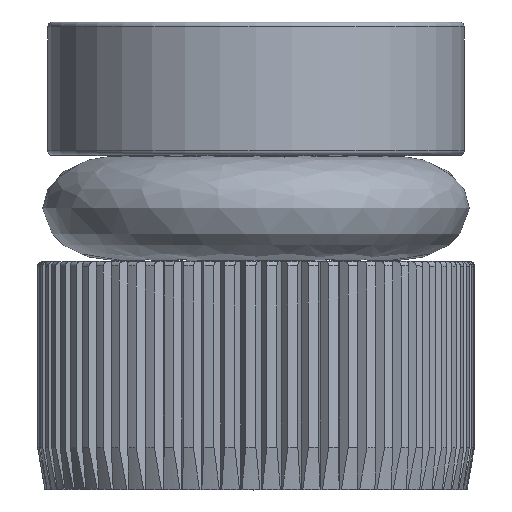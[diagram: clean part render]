
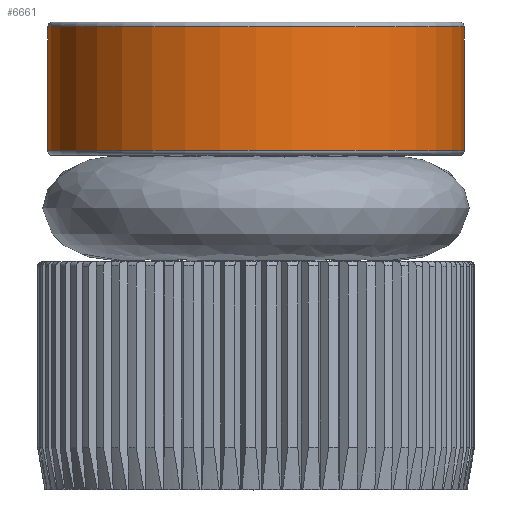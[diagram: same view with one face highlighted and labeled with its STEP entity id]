
A CAD part, top view. The second image highlights one B-rep face of the part: STEP entity #6661.
In plain terms, the highlighted cylindrical face has radius 6.96 mm (diameter 13.919 mm), a full revolution.
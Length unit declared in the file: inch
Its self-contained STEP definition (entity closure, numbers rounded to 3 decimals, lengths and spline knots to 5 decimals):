
#148=CYLINDRICAL_SURFACE('',#7301,0.274);
#764=CIRCLE('',#7299,0.274);
#765=CIRCLE('',#7300,0.274);
#766=CIRCLE('',#7302,0.274);
#767=CIRCLE('',#7303,0.274);
#1115=FACE_OUTER_BOUND('',#1464,.T.);
#1464=EDGE_LOOP('',(#6157,#6158,#6159,#6160,#6161,#6162));
#1944=LINE('',#12600,#2421);
#2421=VECTOR('',#9031,0.274);
#3099=VERTEX_POINT('',#12593);
#3100=VERTEX_POINT('',#12595);
#3101=VERTEX_POINT('',#12599);
#3102=VERTEX_POINT('',#12601);
#4120=EDGE_CURVE('',#3099,#3100,#764,.T.);
#4121=EDGE_CURVE('',#3100,#3099,#765,.T.);
#4122=EDGE_CURVE('',#3099,#3101,#1944,.T.);
#4123=EDGE_CURVE('',#3102,#3101,#766,.T.);
#4124=EDGE_CURVE('',#3101,#3102,#767,.T.);
#6157=ORIENTED_EDGE('',*,*,#4121,.F.);
#6158=ORIENTED_EDGE('',*,*,#4120,.F.);
#6159=ORIENTED_EDGE('',*,*,#4122,.T.);
#6160=ORIENTED_EDGE('',*,*,#4123,.F.);
#6161=ORIENTED_EDGE('',*,*,#4124,.F.);
#6162=ORIENTED_EDGE('',*,*,#4122,.F.);
#6661=ADVANCED_FACE('',(#1115),#148,.T.);
#7299=AXIS2_PLACEMENT_3D('',#12596,#9025,#9026);
#7300=AXIS2_PLACEMENT_3D('',#12597,#9027,#9028);
#7301=AXIS2_PLACEMENT_3D('',#12598,#9029,#9030);
#7302=AXIS2_PLACEMENT_3D('',#12602,#9032,#9033);
#7303=AXIS2_PLACEMENT_3D('',#12603,#9034,#9035);
#9025=DIRECTION('center_axis',(0.,-1.,0.));
#9026=DIRECTION('ref_axis',(0.,0.,1.));
#9027=DIRECTION('center_axis',(0.,-1.,0.));
#9028=DIRECTION('ref_axis',(0.,0.,1.));
#9029=DIRECTION('center_axis',(0.,-1.,0.));
#9030=DIRECTION('ref_axis',(0.,0.,-1.));
#9031=DIRECTION('',(0.,1.,0.));
#9032=DIRECTION('center_axis',(0.,1.,0.));
#9033=DIRECTION('ref_axis',(0.,0.,1.));
#9034=DIRECTION('center_axis',(0.,1.,0.));
#9035=DIRECTION('ref_axis',(0.,0.,1.));
#12593=CARTESIAN_POINT('',(0.,0.446,0.274));
#12595=CARTESIAN_POINT('',(0.,0.446,-0.274));
#12596=CARTESIAN_POINT('Origin',(0.,0.446,0.));
#12597=CARTESIAN_POINT('Origin',(0.,0.446,0.));
#12598=CARTESIAN_POINT('Origin',(0.,0.5275,0.));
#12599=CARTESIAN_POINT('',(0.,0.609,0.274));
#12600=CARTESIAN_POINT('',(0.,0.5275,0.274));
#12601=CARTESIAN_POINT('',(0.,0.609,-0.274));
#12602=CARTESIAN_POINT('Origin',(0.,0.609,0.));
#12603=CARTESIAN_POINT('Origin',(0.,0.609,0.));
